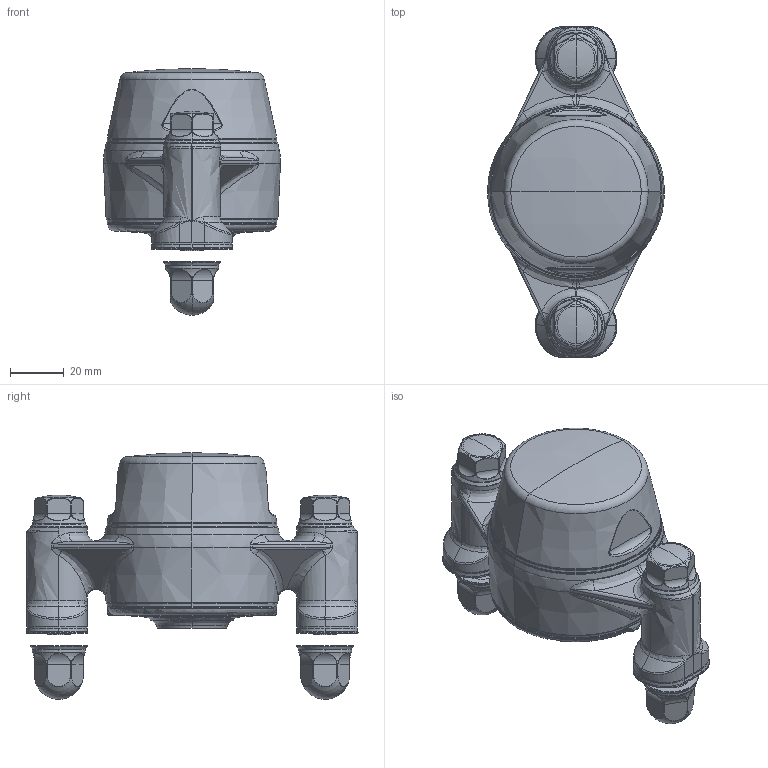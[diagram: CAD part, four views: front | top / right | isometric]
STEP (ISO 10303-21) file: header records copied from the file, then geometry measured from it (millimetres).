
FILE_DESCRIPTION (( 'STEP AP203' ), '1' );
FILE_NAME ('XB2FC52(Blue)-SSB2500(Front)-CL(Blue)-OS(Blue)-BXHM1050-NDXHM10_Shell.step', '2020-09-23T17:26:51', ( '' ), ( '' ), 'SwSTEP 2.0', 'SolidWorks 2019', '' );
FILE_SCHEMA (( 'CONFIG_CONTROL_DESIGN' ));
Length unit declared in the file: millimetre
Products named in the file (1): XB2FC52(Blue)-SSB2500(Front)-CL(Blue)-OS(Blue)-BXHM1050-NDXHM10_Shell
Bounding box: 65.77 x 123.4 x 91.65 mm (x, y, z)
Surface area: 38992.5 mm2 (no closed solid volume)
Topology: 0 solids, 38 shells, 849 faces, 2754 edges, 1875 vertices
Faces by surface type: bspline 349, cylinder 176, torus 120, plane 100, cone 73, sphere 31
Entity records: 50587 total; most frequent: CARTESIAN_POINT 30159, ORIENTED_EDGE 4460, DIRECTION 3341, EDGE_CURVE 2750, VERTEX_POINT 1875, AXIS2_PLACEMENT_3D 1407, B_SPLINE_CURVE_WITH_KNOTS 1255, EDGE_LOOP 911
